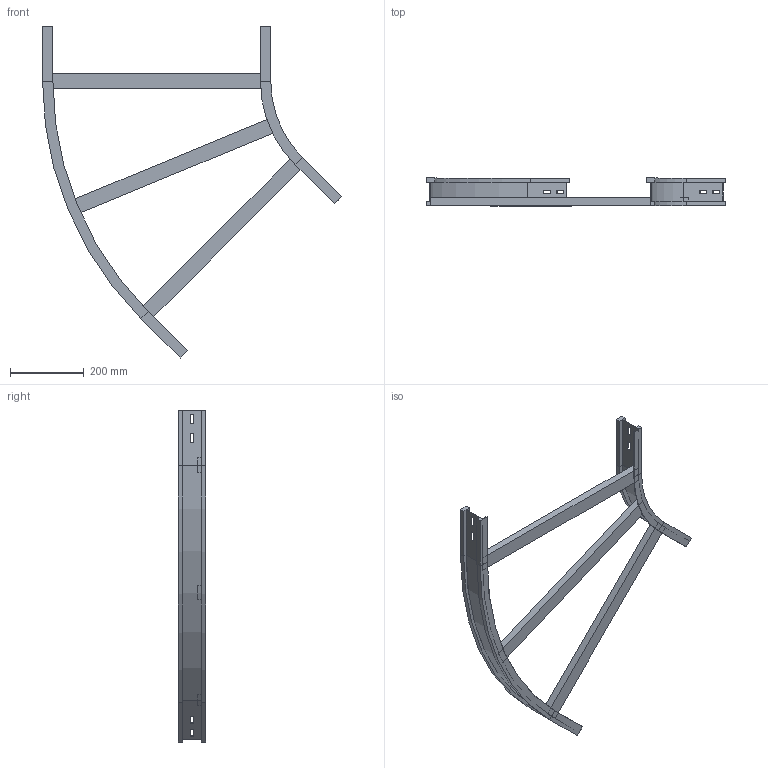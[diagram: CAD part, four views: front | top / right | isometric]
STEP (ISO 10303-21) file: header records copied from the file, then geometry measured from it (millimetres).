
FILE_DESCRIPTION (( 'STEP AP214' ), '1' );
FILE_NAME ('11S3C600.step', '2025-02-21T16:05:39', ( '' ), ( '' ), 'SwSTEP 2.0', 'SolidWorks 2023', '' );
FILE_SCHEMA (( 'AUTOMOTIVE_DESIGN' ));
Length unit declared in the file: millimetre
Products named in the file (4): LONGH.ESTERNO 45°_H75_R300+600; 11S3C600; LONGH.INTERNO 45°_H75_R300; TRAVERSINO_600
Assembly tree (5 placements, depth 2):
  11S3C600
    LONGH.INTERNO 45°_H75_R300
    LONGH.ESTERNO 45°_H75_R300+600
    TRAVERSINO_600  x3
Bounding box: 809.3 x 75 x 898.83 mm (x, y, z)
Volume: 2208065.9 mm3; surface area: 601750 mm2
Topology: 5 solids, 5 shells, 126 faces, 300 edges, 184 vertices
Faces by surface type: plane 114, cylinder 12
Entity records: 3389 total; most frequent: CARTESIAN_POINT 566, ORIENTED_EDGE 552, DIRECTION 544, EDGE_CURVE 276, LINE 252, VECTOR 252, VERTEX_POINT 168, AXIS2_PLACEMENT_3D 146
